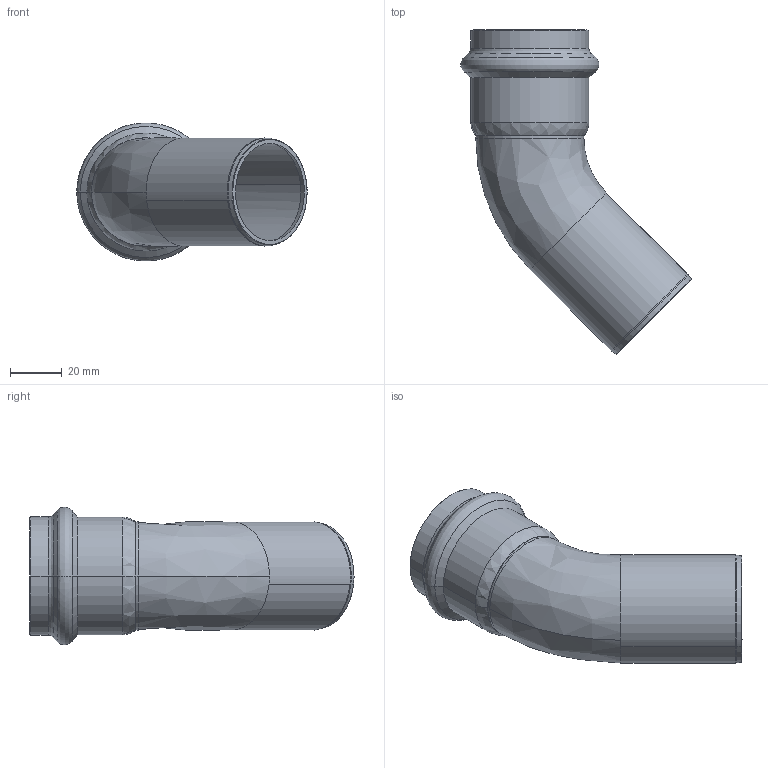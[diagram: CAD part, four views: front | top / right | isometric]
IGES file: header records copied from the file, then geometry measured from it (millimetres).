
Start section: Elysium IGES Interface
Global section: file name: C:\3d modellen sudo\C-Pr VP\SP8040V\8040VW42.igs; native system: CoCreate Modeling 17.00A  17-Jun-2010; preprocessor: CoCreate IGES_3D V2.2; author: Unknown; organization: Unknown; date: 20130129.144416; units: millimetre
Bounding box: 89.43 x 125.82 x 53.57 mm (x, y, z)
Volume: 33010.6 mm3; surface area: 35200.4 mm2
Topology: 1 solids, 1 shells, 60 faces, 132 edges, 74 vertices
Faces by surface type: bspline 60
